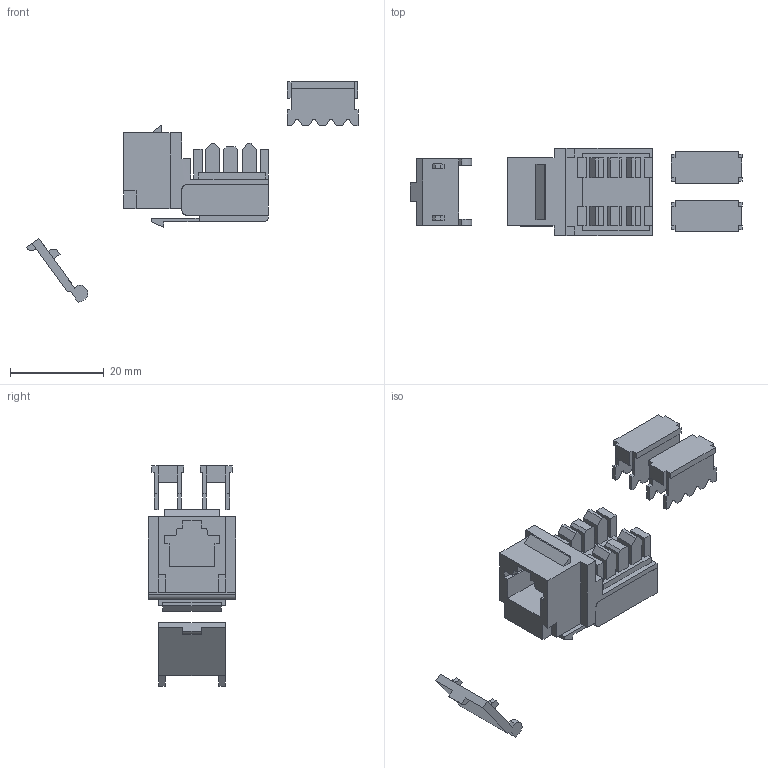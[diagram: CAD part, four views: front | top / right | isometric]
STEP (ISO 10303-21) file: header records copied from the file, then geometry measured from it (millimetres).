
FILE_DESCRIPTION( ('This file contains a STEP AP42 implementation' ,'as created by ZW3D STEP Interface translator.') ,'2;1' );
FILE_NAME( 'TB-016_SY-505-6C-WH_SD.stp' ,'26 330.134527', (''), ('ZWCAD Software Co.'), 'Version 1.0', 'ZW3D to STEP translator', '' );
FILE_SCHEMA(('AUTOMOTIVE_DESIGN'));
Length unit declared in the file: millimetre
Products named in the file (2): 0; TB-016_SY-505-6C-WH_SD
Bounding box: 70.86 x 18.6 x 46.99 mm (x, y, z)
Volume: 7034.8 mm3; surface area: 6317.5 mm2
Topology: 4 solids, 4 shells, 304 faces, 840 edges, 554 vertices
Faces by surface type: bspline 304
Entity records: 12950 total; most frequent: CARTESIAN_POINT 7469, ORIENTED_EDGE 1688, B_SPLINE_CURVE_WITH_KNOTS 840, EDGE_CURVE 840, VERTEX_POINT 554, EDGE_LOOP 314, FACE_OUTER_BOUND 304, ADVANCED_FACE 304
